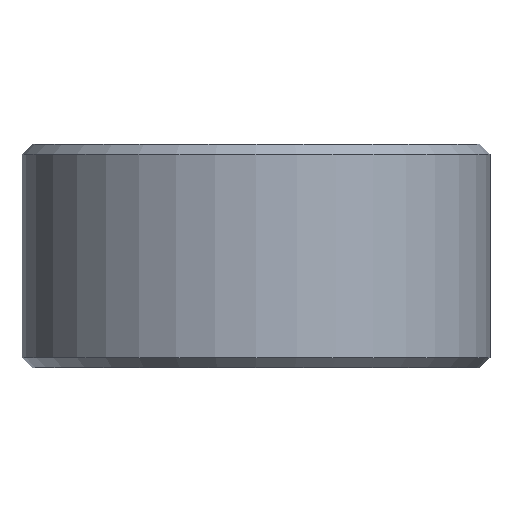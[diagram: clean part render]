
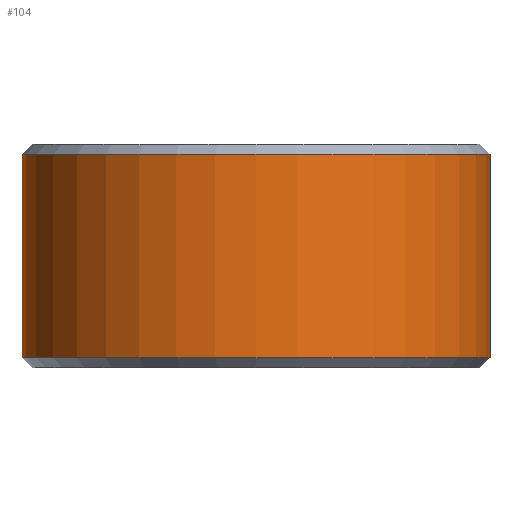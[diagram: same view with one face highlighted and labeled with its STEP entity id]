
A CAD part, front view. The second image highlights one B-rep face of the part: STEP entity #104.
In plain terms, the highlighted cylindrical face has radius 14.5 mm (diameter 29 mm), a partial arc.
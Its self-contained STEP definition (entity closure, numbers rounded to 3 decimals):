
#1 = ORIENTED_EDGE ( 'NONE', *, *, #178, .T. ) ;
#29 = ORIENTED_EDGE ( 'NONE', *, *, #84, .T. ) ;
#38 = VECTOR ( 'NONE', #96, 1000. ) ;
#47 = DIRECTION ( 'NONE',  ( 0., 0., -1. ) ) ;
#48 = CIRCLE ( 'NONE', #386, 14.5 ) ;
#55 = DIRECTION ( 'NONE',  ( 0., 0., 1. ) ) ;
#72 = VERTEX_POINT ( 'NONE', #146 ) ;
#79 = DIRECTION ( 'NONE',  ( 0., 0., -1. ) ) ;
#84 = EDGE_CURVE ( 'NONE', #72, #136, #48, .T. ) ;
#96 = DIRECTION ( 'NONE',  ( 0., 0., -1. ) ) ;
#104 = ADVANCED_FACE ( 'NONE', ( #147 ), #360, .T. ) ;
#122 = DIRECTION ( 'NONE',  ( 0., 0., -1. ) ) ;
#130 = CARTESIAN_POINT ( 'NONE',  ( 14.5, 0., 6.925 ) ) ;
#135 = CARTESIAN_POINT ( 'NONE',  ( 0., 0., -6.29 ) ) ;
#136 = VERTEX_POINT ( 'NONE', #181 ) ;
#140 = EDGE_CURVE ( 'NONE', #72, #341, #307, .T. ) ;
#146 = CARTESIAN_POINT ( 'NONE',  ( 14.5, 0., 6.29 ) ) ;
#147 = FACE_OUTER_BOUND ( 'NONE', #252, .T. ) ;
#149 = CARTESIAN_POINT ( 'NONE',  ( -14.5, 0., -6.29 ) ) ;
#168 = AXIS2_PLACEMENT_3D ( 'NONE', #325, #47, #390 ) ;
#178 = EDGE_CURVE ( 'NONE', #190, #341, #239, .T. ) ;
#181 = CARTESIAN_POINT ( 'NONE',  ( -14.5, 0., 6.29 ) ) ;
#187 = ORIENTED_EDGE ( 'NONE', *, *, #366, .T. ) ;
#190 = VERTEX_POINT ( 'NONE', #149 ) ;
#192 = ORIENTED_EDGE ( 'NONE', *, *, #140, .F. ) ;
#211 = DIRECTION ( 'NONE',  ( 1., 0., 0. ) ) ;
#233 = CARTESIAN_POINT ( 'NONE',  ( 0., 0., 6.29 ) ) ;
#237 = DIRECTION ( 'NONE',  ( 1., 0., 0. ) ) ;
#239 = CIRCLE ( 'NONE', #379, 14.5 ) ;
#252 = EDGE_LOOP ( 'NONE', ( #192, #29, #187, #1 ) ) ;
#307 = LINE ( 'NONE', #130, #38 ) ;
#319 = VECTOR ( 'NONE', #79, 1000. ) ;
#324 = CARTESIAN_POINT ( 'NONE',  ( -14.5, 0., 6.925 ) ) ;
#325 = CARTESIAN_POINT ( 'NONE',  ( 0., 0., 6.925 ) ) ;
#341 = VERTEX_POINT ( 'NONE', #384 ) ;
#350 = LINE ( 'NONE', #324, #319 ) ;
#360 = CYLINDRICAL_SURFACE ( 'NONE', #168, 14.5 ) ;
#366 = EDGE_CURVE ( 'NONE', #136, #190, #350, .T. ) ;
#379 = AXIS2_PLACEMENT_3D ( 'NONE', #135, #55, #211 ) ;
#384 = CARTESIAN_POINT ( 'NONE',  ( 14.5, 0., -6.29 ) ) ;
#386 = AXIS2_PLACEMENT_3D ( 'NONE', #233, #122, #237 ) ;
#390 = DIRECTION ( 'NONE',  ( -1., 0., 0. ) ) ;
